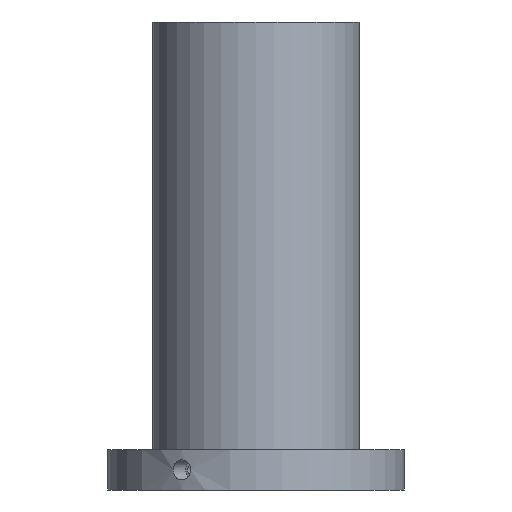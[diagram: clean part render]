
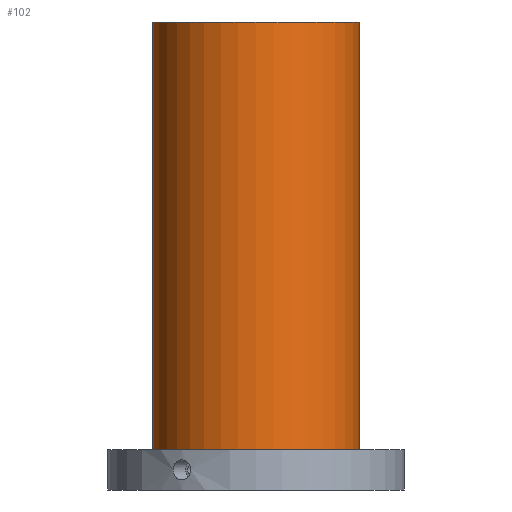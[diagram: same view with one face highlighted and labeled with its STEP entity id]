
A CAD part, front view. The second image highlights one B-rep face of the part: STEP entity #102.
In plain terms, the highlighted cylindrical face has radius 41 mm (diameter 82 mm), a full revolution.
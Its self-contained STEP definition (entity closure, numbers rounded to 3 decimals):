
#102=ADVANCED_FACE('',(#136,#137),#119,.T.);
#119=CYLINDRICAL_SURFACE('',#371,41.);
#136=FACE_BOUND('',#188,.T.);
#137=FACE_BOUND('',#189,.T.);
#188=EDGE_LOOP('',(#240));
#189=EDGE_LOOP('',(#241));
#240=ORIENTED_EDGE('',*,*,#318,.F.);
#241=ORIENTED_EDGE('',*,*,#319,.T.);
#292=VERTEX_POINT('',#557);
#293=VERTEX_POINT('',#559);
#318=EDGE_CURVE('',#292,#292,#343,.T.);
#319=EDGE_CURVE('',#293,#293,#344,.T.);
#343=CIRCLE('',#369,41.);
#344=CIRCLE('',#370,41.);
#369=AXIS2_PLACEMENT_3D('',#556,#415,#416);
#370=AXIS2_PLACEMENT_3D('',#558,#417,#418);
#371=AXIS2_PLACEMENT_3D('',#560,#419,#420);
#415=DIRECTION('',(0.,0.,-1.));
#416=DIRECTION('',(1.,0.,0.));
#417=DIRECTION('',(0.,0.,-1.));
#418=DIRECTION('',(1.,0.,0.));
#419=DIRECTION('',(0.,0.,-1.));
#420=DIRECTION('',(-1.,0.,0.));
#556=CARTESIAN_POINT('',(0.,0.,16.));
#557=CARTESIAN_POINT('',(41.,0.,16.));
#558=CARTESIAN_POINT('',(0.,0.,186.));
#559=CARTESIAN_POINT('',(41.,0.,186.));
#560=CARTESIAN_POINT('',(0.,0.,186.));
